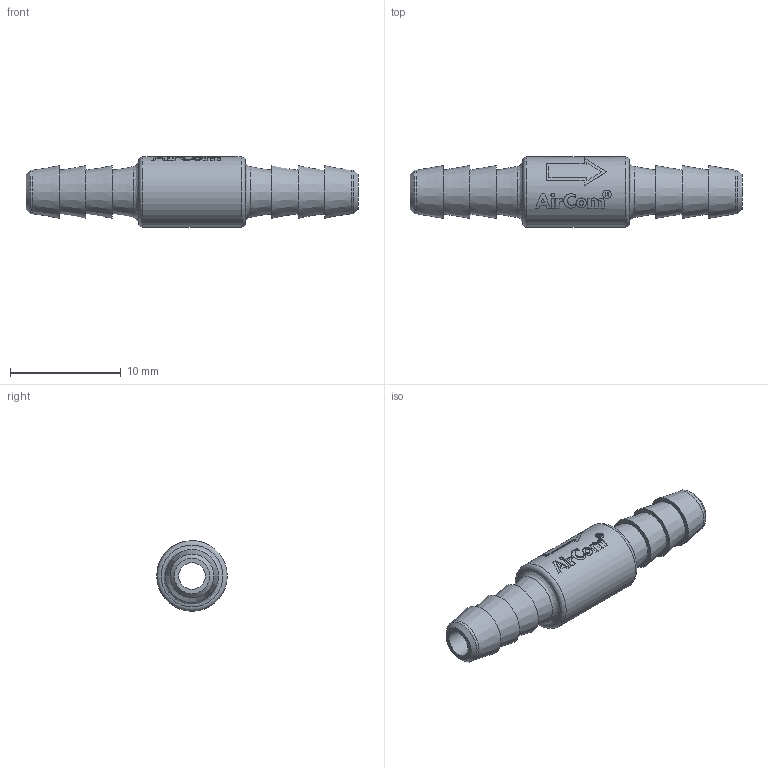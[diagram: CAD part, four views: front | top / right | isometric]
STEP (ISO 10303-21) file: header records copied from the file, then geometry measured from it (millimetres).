
FILE_DESCRIPTION((''),'2;1');
FILE_NAME('F:\AirCom-Produktdokumentation\Ventile diverse\Drossel\F950\CAD\CAD AirCom\3D\B-F950-B85.stp','2007-09-07T10:13:35',('Frank Schroers'),(''),'Autodesk Inventor 2008','Autodesk Inventor 2008','');
FILE_SCHEMA(('AUTOMOTIVE_DESIGN { 1 0 10303 214 1 1 1 1 }'));
Length unit declared in the file: millimetre
Products named in the file (1): B-F950-B85
Bounding box: 30 x 6.37 x 6.37 mm (x, y, z)
Volume: 471.1 mm3; surface area: 768.3 mm2
Topology: 1 solids, 1 shells, 113 faces, 263 edges, 172 vertices
Faces by surface type: plane 67, cylinder 30, cone 10, bspline 4, torus 2
Full cylindrical faces by diameter (mm): 0.329 x1, 0.765 x1, 2.4 x1, 3.958 x1, 3.962 x1, 6.37 x1
Entity records: 3744 total; most frequent: CARTESIAN_POINT 1188, DIRECTION 531, ORIENTED_EDGE 482, EDGE_CURVE 241, AXIS2_PLACEMENT_3D 208, VERTEX_POINT 172, EDGE_LOOP 157, VECTOR 115
